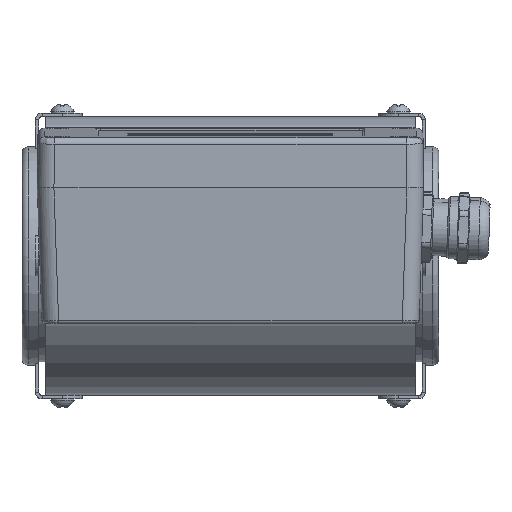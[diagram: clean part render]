
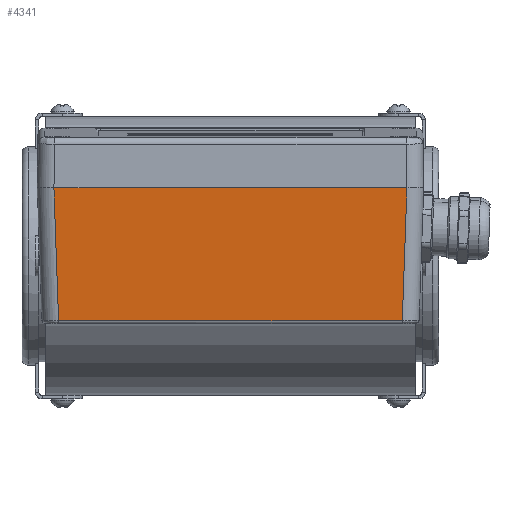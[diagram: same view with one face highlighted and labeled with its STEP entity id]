
A CAD part, top view. The second image highlights one B-rep face of the part: STEP entity #4341.
In plain terms, the highlighted planar face has unit normal (0, -0.07, 0.998).
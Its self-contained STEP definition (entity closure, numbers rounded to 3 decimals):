
#4341=ADVANCED_FACE('',(#11555),#11557,.T.);
#11555=FACE_BOUND('',#11556,.T.);
#11556=EDGE_LOOP('',(#23626,#23627,#23628,#23629,#23630,#23631));
#11557=PLANE('',#11558);
#11558=AXIS2_PLACEMENT_3D('',#11559,#11560,#11561);
#11559=CARTESIAN_POINT('',(-57.5,19.917,186.445));
#11560=DIRECTION('',(0.,-0.07,0.998));
#11561=DIRECTION('',(-1.,0.,0.));
#23626=ORIENTED_EDGE('',*,*,#27041,.F.);
#23627=ORIENTED_EDGE('',*,*,#27042,.T.);
#23628=ORIENTED_EDGE('',*,*,#27017,.F.);
#23629=ORIENTED_EDGE('',*,*,#26948,.F.);
#23630=ORIENTED_EDGE('',*,*,#26998,.F.);
#23631=ORIENTED_EDGE('',*,*,#27043,.T.);
#26948=EDGE_CURVE('',#29947,#29950,#29951,.T.);
#26998=EDGE_CURVE('',#30040,#29947,#30042,.T.);
#27017=EDGE_CURVE('',#29950,#30071,#30072,.T.);
#27041=EDGE_CURVE('',#30110,#30111,#30112,.F.);
#27042=EDGE_CURVE('',#30110,#30071,#30113,.T.);
#27043=EDGE_CURVE('',#30040,#30111,#30114,.T.);
#29947=VERTEX_POINT('',#38156);
#29950=VERTEX_POINT('',#38179);
#29951=LINE('',#38180,#38181);
#30040=VERTEX_POINT('',#38414);
#30042=LINE('',#38419,#38420);
#30071=VERTEX_POINT('',#38492);
#30072=LINE('',#38493,#38494);
#30110=VERTEX_POINT('',#38586);
#30111=VERTEX_POINT('',#38587);
#30112=LINE('',#38588,#38589);
#30113=LINE('',#38591,#38592);
#30114=LINE('',#38594,#38595);
#38156=CARTESIAN_POINT('',(51.122,-19.545,183.686));
#38179=CARTESIAN_POINT('',(-51.122,-19.545,183.686));
#38180=CARTESIAN_POINT('',(51.122,-19.545,183.686));
#38181=VECTOR('',#38182,1.);
#38182=DIRECTION('',(-1.,0.,0.));
#38414=CARTESIAN_POINT('',(52.503,19.917,186.445));
#38419=CARTESIAN_POINT('',(52.503,19.917,186.445));
#38420=VECTOR('',#38421,1.);
#38421=DIRECTION('',(-0.035,-0.997,-0.07));
#38492=CARTESIAN_POINT('',(-52.503,19.917,186.445));
#38493=CARTESIAN_POINT('',(-51.122,-19.545,183.686));
#38494=VECTOR('',#38495,1.);
#38495=DIRECTION('',(-0.035,0.997,0.07));
#38586=CARTESIAN_POINT('',(-52.501,19.917,186.445));
#38587=CARTESIAN_POINT('',(52.501,19.917,186.445));
#38588=CARTESIAN_POINT('',(52.501,19.917,186.445));
#38589=VECTOR('',#38590,1.);
#38590=DIRECTION('',(-1.,0.,0.));
#38591=CARTESIAN_POINT('',(-52.501,19.917,186.445));
#38592=VECTOR('',#38593,1.);
#38593=DIRECTION('',(-1.,0.,0.));
#38594=CARTESIAN_POINT('',(52.503,19.917,186.445));
#38595=VECTOR('',#38596,1.);
#38596=DIRECTION('',(-1.,0.,0.));
